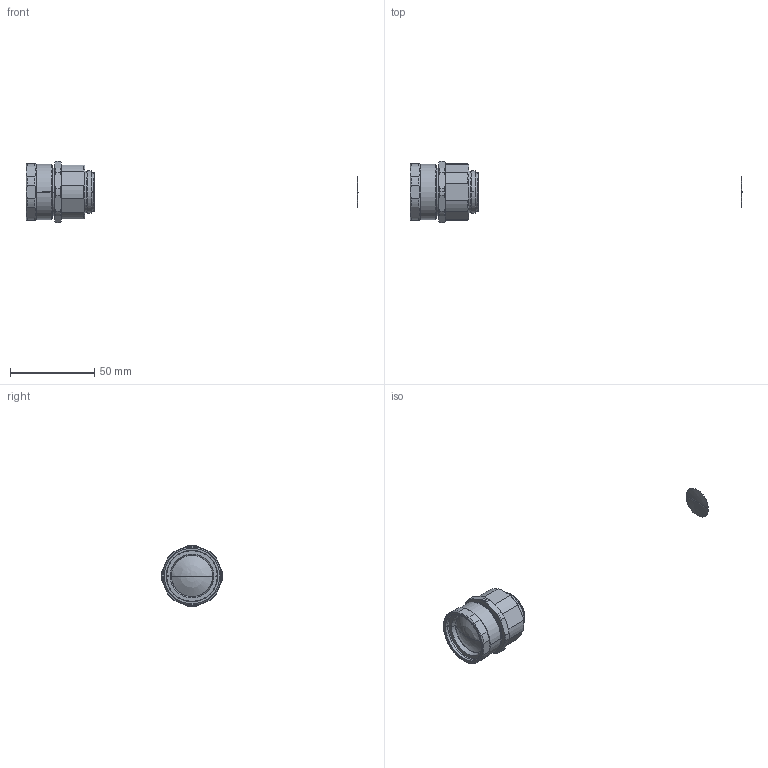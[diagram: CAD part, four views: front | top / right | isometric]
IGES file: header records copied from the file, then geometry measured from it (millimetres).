
Start section: SolidWorks IGES file using analytic representation for surfaces
Global section: file name: C:\Users\sugita_vst\Desktop\AutoCAD図面DATA\・MC35H1,MC50H1(D-1800211,212)   (3Dモデル) ▲\VS-MC35H1.IGS; native system: SolidWorks 2018; preprocessor: SolidWorks 2018; author: sugita_vst; date: 181227.111903; units: millimetre
Bounding box: 197.09 x 36.48 x 36.5 mm (x, y, z)
Surface area: 10492.3 mm2 (no closed solid volume)
Topology: 0 solids, 0 shells, 155 faces, 2126 edges, 2125 vertices
Faces by surface type: revolution 117, bspline 38
